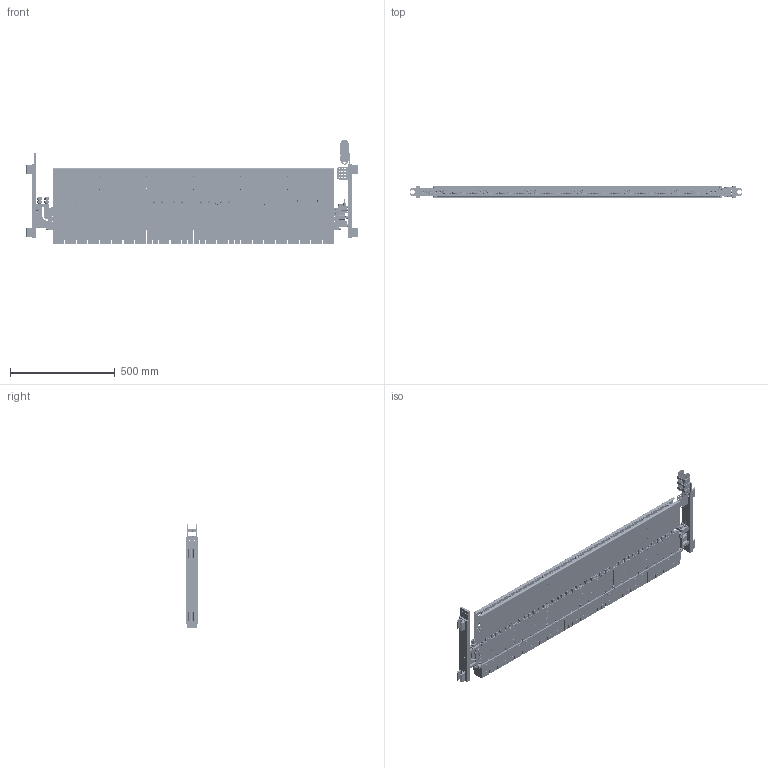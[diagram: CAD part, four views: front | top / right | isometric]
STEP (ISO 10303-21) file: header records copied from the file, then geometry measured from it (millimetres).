
FILE_DESCRIPTION(/* description */ (''),/* implementation_level */ '2;1');
FILE_NAME(/* name */ '190619_RICH2 column.stp',/* time_stamp */ '2019-06-19T16:53:26+02:00',/* author */ (''),/* organization */ (''),/* preprocessor_version */ 'ST-DEVELOPER v16.7',/* originating_system */ 'SIEMENS PLM Software NX 12.0',/* authorisation */ '');
FILE_SCHEMA (('AUTOMOTIVE_DESIGN { 1 0 10303 214 3 1 1 1 }'));
Products named in the file (1): bmas1324EDDDcoga
Bounding box: 1584 x 56 x 500.25 mm (x, y, z)
Volume: 10510510.7 mm3; surface area: 4687715.4 mm2
Topology: 965 solids, 965 shells, 49037 faces, 133426 edges, 86131 vertices
Faces by surface type: plane 30676, cylinder 13424, cone 2702, sphere 1028, torus 971, bspline 234, revolution 2
Full cylindrical faces by diameter (mm): 2.05 x87, 2.1 x12, 2.2 x96, 2.38 x12, 2.8 x1, 2.99 x12, 3 x145, 3.3 x58, 3.5 x66, 3.6 x4, 3.838 x44, 4 x49, 4.19 x12, 4.2 x63, 4.5 x29, 4.826 x33, 5 x97, 5.5 x37, 5.795 x22, 6 x209, 6.2 x22, 6.5 x4, 6.8 x1, 7 x35, 7.6 x14, 8 x30, 8.5 x35, 10 x49, 11 x11, 13 x1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
Entity records: 1570123 total; most frequent: CARTESIAN_POINT 319985, ORIENTED_EDGE 259302, DIRECTION 252407, EDGE_CURVE 129651, LINE 92631, VECTOR 92631, VERTEX_POINT 85444, AXIS2_PLACEMENT_3D 79887
